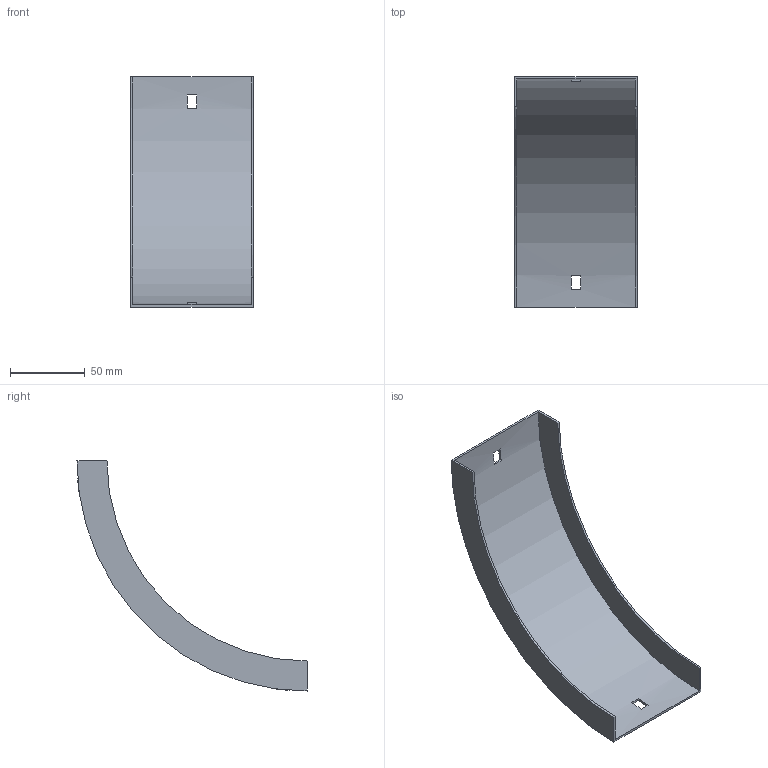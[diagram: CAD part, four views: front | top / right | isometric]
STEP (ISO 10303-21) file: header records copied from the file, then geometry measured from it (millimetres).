
FILE_DESCRIPTION (( 'STEP AP214' ), '1' );
FILE_NAME ('33N1B075.step', '2025-02-21T09:17:52', ( '' ), ( '' ), 'SwSTEP 2.0', 'SolidWorks 2023', '' );
FILE_SCHEMA (( 'AUTOMOTIVE_DESIGN' ));
Length unit declared in the file: millimetre
Products named in the file (1): 33N1B075
Bounding box: 82 x 153.5 x 153.5 mm (x, y, z)
Volume: 41780.8 mm3; surface area: 56790.9 mm2
Topology: 1 solids, 1 shells, 18 faces, 48 edges, 32 vertices
Faces by surface type: plane 14, cylinder 4
Entity records: 599 total; most frequent: DIRECTION 102, CARTESIAN_POINT 99, ORIENTED_EDGE 96, EDGE_CURVE 48, AXIS2_PLACEMENT_3D 35, VECTOR 32, LINE 32, VERTEX_POINT 32
